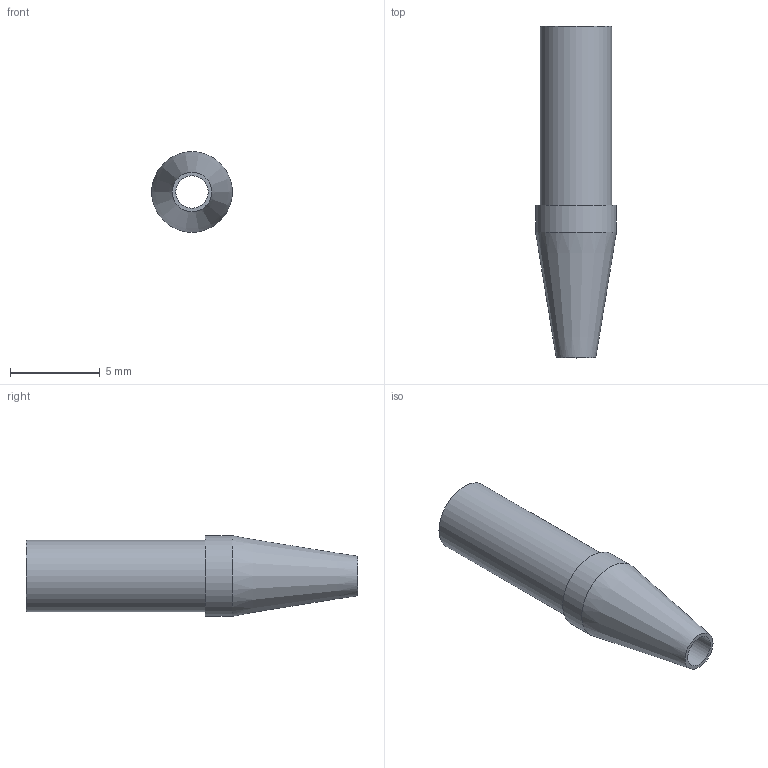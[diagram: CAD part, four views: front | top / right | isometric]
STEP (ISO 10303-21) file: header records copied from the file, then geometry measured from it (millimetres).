
FILE_DESCRIPTION(/* description */ ('STEP AP242 Edition 2','CAx-IF Rec.Pracs.---Representation and Presentation of Product Manufacturing Information (PMI)---4.0---2014-10-13','CAx-IF Rec.Pracs.---3D Tessellated Geometry---0.4---2014-09-14','2;1','CAx-IF Rec.Pracs.---User Defined Attributes---1.5---2016-08-15'),/* implementation_level */ '2;1');
FILE_NAME(/* name */ 'Final Build - pen tipholder',/* time_stamp */ '2026-08-31T23:26:26Z',/* author */ (''),/* organization */ (''),/* preprocessor_version */ 'ST-DEVELOPER v20',/* originating_system */ 'ONSHAPE BY PTC INC, 1.220',/* authorisation */ ' ');
FILE_SCHEMA (('AP242_MANAGED_MODEL_BASED_3D_ENGINEERING_MIM_LF { 1 0 10303 442 3 1 4 }'));
Length unit declared in the file: metre
Products named in the file (1): pen tipholder
Bounding box: 4.5 x 18.5 x 4.5 mm (x, y, z)
Volume: 107.5 mm3; surface area: 386.7 mm2
Topology: 1 solids, 1 shells, 9 faces, 15 edges, 9 vertices
Faces by surface type: cylinder 4, plane 3, cone 2
Full cylindrical faces by diameter (mm): 1.8 x1, 3 x1, 4 x1, 4.5 x1
Entity records: 210 total; most frequent: DIRECTION 38, CARTESIAN_POINT 28, AXIS2_PLACEMENT_3D 19, ORIENTED_EDGE 18, EDGE_LOOP 18, FACE_BOUND 18, EDGE_CURVE 9, VERTEX_POINT 9
